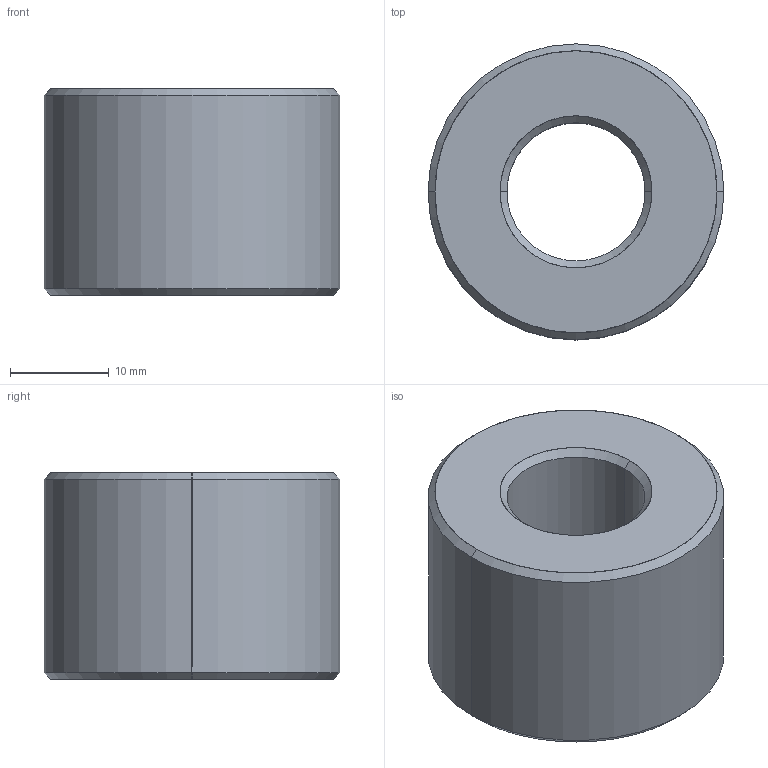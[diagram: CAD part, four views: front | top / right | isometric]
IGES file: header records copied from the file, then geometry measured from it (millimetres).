
Start section: SolidWorks IGES file using analytic representation for surfaces
Global section: file name: C:\Users\ianosborn\Desktop\L1339_v2\L1339_v2_20241024_IGES\L1339.L14-03.igs; native system: SolidWorks 2019; preprocessor: SolidWorks 2019; author: IanOsborn; date: 241024.150504; units: millimetre
Bounding box: 30 x 30 x 21 mm (x, y, z)
Surface area: 3895.3 mm2 (no closed solid volume)
Topology: 0 solids, 0 shells, 14 faces, 240 edges, 240 vertices
Faces by surface type: revolution 12, bspline 2
